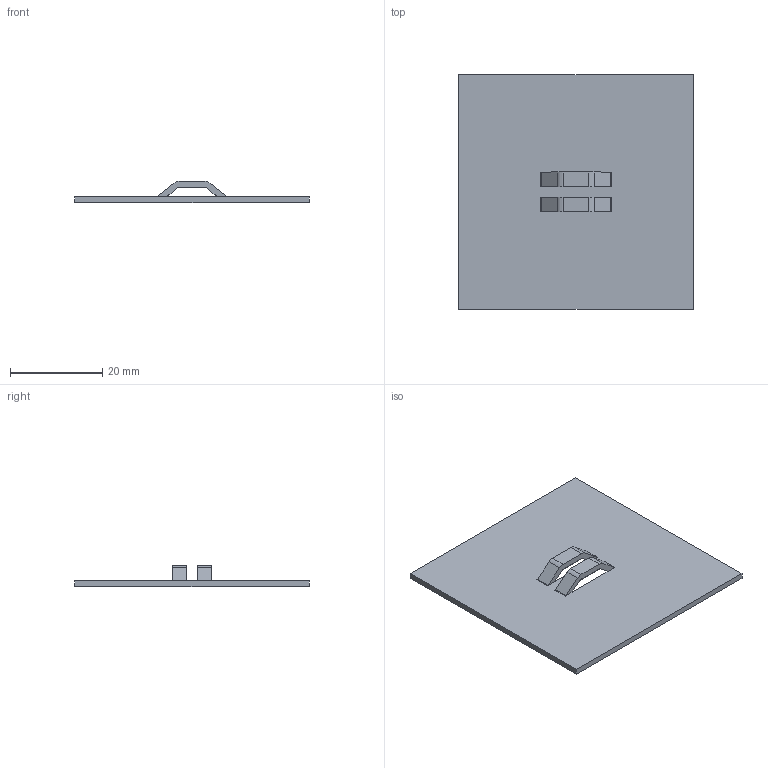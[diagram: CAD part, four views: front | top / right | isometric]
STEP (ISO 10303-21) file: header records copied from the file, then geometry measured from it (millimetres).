
FILE_DESCRIPTION((''),'1');
FILE_NAME('C:/Users/robertnolte/Desktop/WT#709423-10.stp','2012-03-27T19:56:31',(''),(''),'Spatial Interop R21 SP3','Kubotek KeyCreator 2011 V10.5.0 (24766)',' ');
FILE_SCHEMA(('CONFIG_CONTROL_DESIGN'));
Length unit declared in the file: inch
Products named in the file (1): 1
Bounding box: 50.8 x 50.81 x 4.57 mm (x, y, z)
Volume: 3296.1 mm3; surface area: 5608.3 mm2
Topology: 1 solids, 1 shells, 42 faces, 118 edges, 74 vertices
Faces by surface type: plane 26, cylinder 16
Entity records: 1402 total; most frequent: DIRECTION 236, ORIENTED_EDGE 236, CARTESIAN_POINT 235, EDGE_CURVE 118, LINE 86, VECTOR 86, AXIS2_PLACEMENT_3D 75, VERTEX_POINT 74
